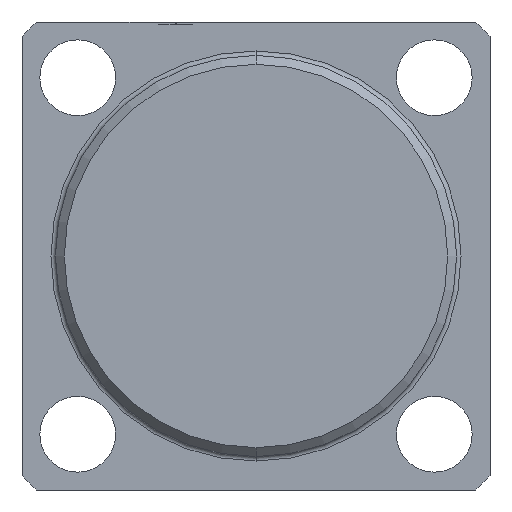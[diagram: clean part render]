
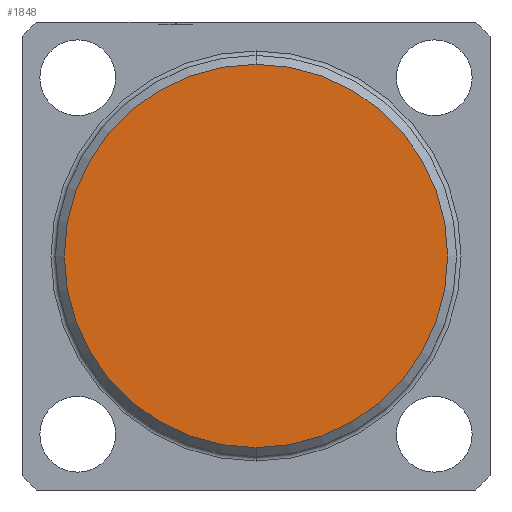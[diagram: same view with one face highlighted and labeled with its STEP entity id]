
A CAD part, front view. The second image highlights one B-rep face of the part: STEP entity #1848.
In plain terms, the highlighted planar face has unit normal (0, -1, 0).
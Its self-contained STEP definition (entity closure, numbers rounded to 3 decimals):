
#65 = CARTESIAN_POINT ( 'NONE',  ( 0., -99., 0. ) ) ;
#159 = EDGE_CURVE ( 'NONE', #447, #716, #780, .T. ) ;
#233 = DIRECTION ( 'NONE',  ( 0., -1., 0. ) ) ;
#345 = PLANE ( 'NONE',  #399 ) ;
#399 = AXIS2_PLACEMENT_3D ( 'NONE', #65, #1430, #3299 ) ;
#447 = VERTEX_POINT ( 'NONE', #831 ) ;
#716 = VERTEX_POINT ( 'NONE', #2976 ) ;
#780 = CIRCLE ( 'NONE', #1902, 43. ) ;
#831 = CARTESIAN_POINT ( 'NONE',  ( 0., -99., -43. ) ) ;
#921 = DIRECTION ( 'NONE',  ( 0., -1., 0. ) ) ;
#1430 = DIRECTION ( 'NONE',  ( 0., -1., 0. ) ) ;
#1825 = CARTESIAN_POINT ( 'NONE',  ( 0., -99., 0. ) ) ;
#1829 = EDGE_LOOP ( 'NONE', ( #3330, #3206 ) ) ;
#1848 = ADVANCED_FACE ( 'NONE', ( #2204 ), #345, .T. ) ;
#1902 = AXIS2_PLACEMENT_3D ( 'NONE', #2807, #921, #2533 ) ;
#2107 = DIRECTION ( 'NONE',  ( 0., 0., -1. ) ) ;
#2204 = FACE_OUTER_BOUND ( 'NONE', #1829, .T. ) ;
#2402 = AXIS2_PLACEMENT_3D ( 'NONE', #1825, #233, #2107 ) ;
#2533 = DIRECTION ( 'NONE',  ( 0., 0., -1. ) ) ;
#2807 = CARTESIAN_POINT ( 'NONE',  ( 0., -99., 0. ) ) ;
#2976 = CARTESIAN_POINT ( 'NONE',  ( 0., -99., 43. ) ) ;
#2981 = EDGE_CURVE ( 'NONE', #716, #447, #3242, .T. ) ;
#3206 = ORIENTED_EDGE ( 'NONE', *, *, #159, .T. ) ;
#3242 = CIRCLE ( 'NONE', #2402, 43. ) ;
#3299 = DIRECTION ( 'NONE',  ( 0., 0., -1. ) ) ;
#3330 = ORIENTED_EDGE ( 'NONE', *, *, #2981, .T. ) ;
